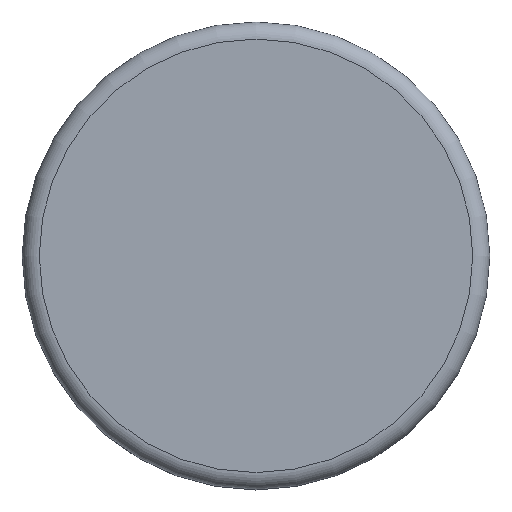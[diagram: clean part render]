
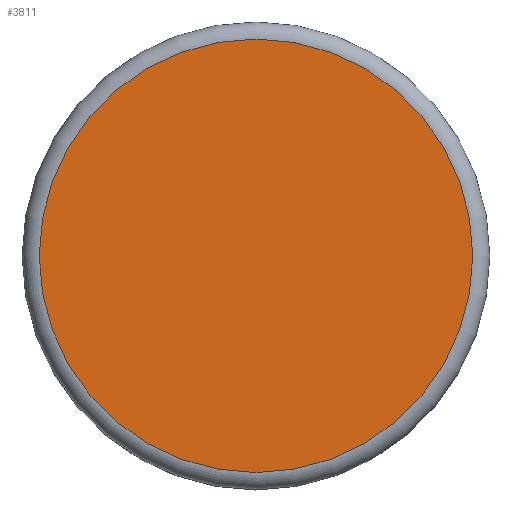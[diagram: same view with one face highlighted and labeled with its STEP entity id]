
A CAD part, top view. The second image highlights one B-rep face of the part: STEP entity #3811.
In plain terms, the highlighted planar face has unit normal (0, 0, 1).
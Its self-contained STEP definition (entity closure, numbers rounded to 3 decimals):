
#882 = TOROIDAL_SURFACE('',#883,19.,1.5);
#883 = AXIS2_PLACEMENT_3D('',#884,#885,#886);
#884 = CARTESIAN_POINT('',(0.,0.,16.5));
#885 = DIRECTION('',(0.,0.,1.));
#886 = DIRECTION('',(1.,0.,0.));
#983 = VERTEX_POINT('',#984);
#984 = CARTESIAN_POINT('',(19.,0.,18.));
#1006 = EDGE_CURVE('',#983,#983,#1007,.T.);
#1007 = SURFACE_CURVE('',#1008,(#1013,#1020),.PCURVE_S1.);
#1008 = CIRCLE('',#1009,19.);
#1009 = AXIS2_PLACEMENT_3D('',#1010,#1011,#1012);
#1010 = CARTESIAN_POINT('',(0.,0.,18.));
#1011 = DIRECTION('',(0.,-0.,1.));
#1012 = DIRECTION('',(1.,0.,0.));
#1013 = PCURVE('',#882,#1014);
#1014 = DEFINITIONAL_REPRESENTATION('',(#1015),#1019);
#1015 = LINE('',#1016,#1017);
#1016 = CARTESIAN_POINT('',(0.,7.854));
#1017 = VECTOR('',#1018,1.);
#1018 = DIRECTION('',(1.,0.));
#1019 = ( GEOMETRIC_REPRESENTATION_CONTEXT(2) 
PARAMETRIC_REPRESENTATION_CONTEXT() REPRESENTATION_CONTEXT('2D SPACE',''
  ) );
#1020 = PCURVE('',#1021,#1026);
#1021 = PLANE('',#1022);
#1022 = AXIS2_PLACEMENT_3D('',#1023,#1024,#1025);
#1023 = CARTESIAN_POINT('',(0.,0.,18.));
#1024 = DIRECTION('',(0.,0.,1.));
#1025 = DIRECTION('',(1.,0.,0.));
#1026 = DEFINITIONAL_REPRESENTATION('',(#1027),#1031);
#1027 = CIRCLE('',#1028,19.);
#1028 = AXIS2_PLACEMENT_2D('',#1029,#1030);
#1029 = CARTESIAN_POINT('',(0.,0.));
#1030 = DIRECTION('',(1.,-0.));
#1031 = ( GEOMETRIC_REPRESENTATION_CONTEXT(2) 
PARAMETRIC_REPRESENTATION_CONTEXT() REPRESENTATION_CONTEXT('2D SPACE',''
  ) );
#3811 = ADVANCED_FACE('',(#3812),#1021,.T.);
#3812 = FACE_BOUND('',#3813,.F.);
#3813 = EDGE_LOOP('',(#3814));
#3814 = ORIENTED_EDGE('',*,*,#1006,.F.);
